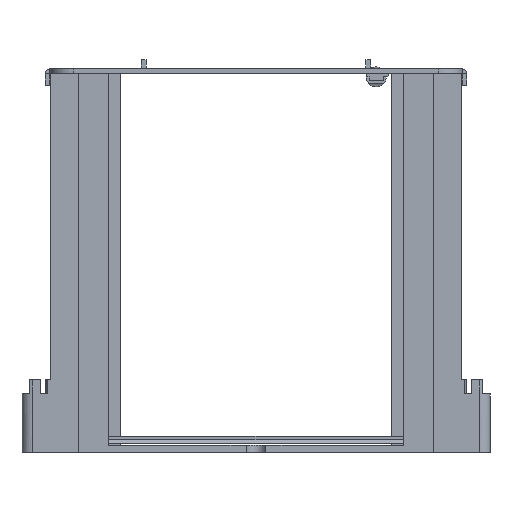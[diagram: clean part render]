
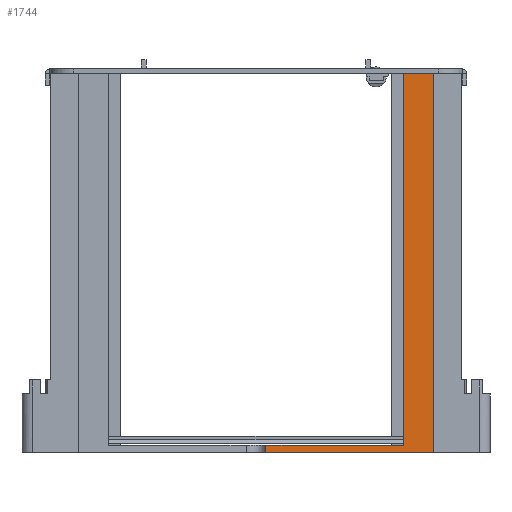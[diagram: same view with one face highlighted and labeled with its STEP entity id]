
A CAD part, front view. The second image highlights one B-rep face of the part: STEP entity #1744.
In plain terms, the highlighted planar face has unit normal (0, -1, 0).
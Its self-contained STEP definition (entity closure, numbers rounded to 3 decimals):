
#176 = DIRECTION ( 'NONE',  ( -1., 0., 0. ) ) ;
#178 = CARTESIAN_POINT ( 'NONE',  ( 63., -3., -2. ) ) ;
#182 = CARTESIAN_POINT ( 'NONE',  ( -94.248, -3., -161. ) ) ;
#217 = DIRECTION ( 'NONE',  ( 1., 0., 0. ) ) ;
#1128 = ORIENTED_EDGE ( 'NONE', *, *, #6571, .F. ) ;
#1129 = ORIENTED_EDGE ( 'NONE', *, *, #6758, .T. ) ;
#1130 = ORIENTED_EDGE ( 'NONE', *, *, #2508, .F. ) ;
#1131 = ORIENTED_EDGE ( 'NONE', *, *, #6748, .T. ) ;
#1133 = ORIENTED_EDGE ( 'NONE', *, *, #6583, .T. ) ;
#1134 = ORIENTED_EDGE ( 'NONE', *, *, #2249, .F. ) ;
#1260 = EDGE_LOOP ( 'NONE', ( #1128, #1129, #1130, #1131, #1133, #1134 ) ) ;
#1647 = VECTOR ( 'NONE', #7068, 1000. ) ;
#1652 = LINE ( 'NONE', #7081, #1647 ) ;
#1744 = ADVANCED_FACE ( 'NONE', ( #6070 ), #8094, .F. ) ;
#2249 = EDGE_CURVE ( 'NONE', #8321, #7973, #3451, .T. ) ;
#2508 = EDGE_CURVE ( 'NONE', #8065, #8380, #1652, .T. ) ;
#2640 = DIRECTION ( 'NONE',  ( 0., 0., 1. ) ) ;
#2641 = CARTESIAN_POINT ( 'NONE',  ( 63., -3., -151. ) ) ;
#3451 = LINE ( 'NONE', #2641, #3452 ) ;
#3452 = VECTOR ( 'NONE', #2640, 1000. ) ;
#4333 = LINE ( 'NONE', #4836, #4334 ) ;
#4334 = VECTOR ( 'NONE', #4837, 1000. ) ;
#4346 = LINE ( 'NONE', #4843, #4350 ) ;
#4350 = VECTOR ( 'NONE', #4864, 1000. ) ;
#4443 = AXIS2_PLACEMENT_3D ( 'NONE', #8092, #8090, #8089 ) ;
#4836 = CARTESIAN_POINT ( 'NONE',  ( 76., -3., -151. ) ) ;
#4837 = DIRECTION ( 'NONE',  ( 0., 0., 1. ) ) ;
#4843 = CARTESIAN_POINT ( 'NONE',  ( 4.25, -3., -161. ) ) ;
#4864 = DIRECTION ( 'NONE',  ( 0., 0., -1. ) ) ;
#4953 = CARTESIAN_POINT ( 'NONE',  ( 63., -3., -2. ) ) ;
#4979 = CARTESIAN_POINT ( 'NONE',  ( 76., -3., -164. ) ) ;
#5204 = CARTESIAN_POINT ( 'NONE',  ( 76., -3., -2. ) ) ;
#5208 = CARTESIAN_POINT ( 'NONE',  ( 4.25, -3., -161. ) ) ;
#5229 = CARTESIAN_POINT ( 'NONE',  ( 63., -3., -161. ) ) ;
#5287 = CARTESIAN_POINT ( 'NONE',  ( 4.25, -3., -164. ) ) ;
#6070 = FACE_OUTER_BOUND ( 'NONE', #1260, .T. ) ;
#6456 = LINE ( 'NONE', #182, #6466 ) ;
#6466 = VECTOR ( 'NONE', #217, 1000. ) ;
#6488 = LINE ( 'NONE', #178, #6489 ) ;
#6489 = VECTOR ( 'NONE', #176, 1000. ) ;
#6571 = EDGE_CURVE ( 'NONE', #8300, #8321, #6456, .T. ) ;
#6583 = EDGE_CURVE ( 'NONE', #8296, #7973, #6488, .T. ) ;
#6748 = EDGE_CURVE ( 'NONE', #8065, #8296, #4333, .T. ) ;
#6758 = EDGE_CURVE ( 'NONE', #8300, #8380, #4346, .T. ) ;
#7068 = DIRECTION ( 'NONE',  ( -1., 0., 0. ) ) ;
#7081 = CARTESIAN_POINT ( 'NONE',  ( 76., -3., -164. ) ) ;
#7973 = VERTEX_POINT ( 'NONE', #4953 ) ;
#8065 = VERTEX_POINT ( 'NONE', #4979 ) ;
#8089 = DIRECTION ( 'NONE',  ( 1., 0., 0. ) ) ;
#8090 = DIRECTION ( 'NONE',  ( 0., 1., 0. ) ) ;
#8092 = CARTESIAN_POINT ( 'NONE',  ( 63., -3., -151. ) ) ;
#8094 = PLANE ( 'NONE',  #4443 ) ;
#8296 = VERTEX_POINT ( 'NONE', #5204 ) ;
#8300 = VERTEX_POINT ( 'NONE', #5208 ) ;
#8321 = VERTEX_POINT ( 'NONE', #5229 ) ;
#8380 = VERTEX_POINT ( 'NONE', #5287 ) ;
